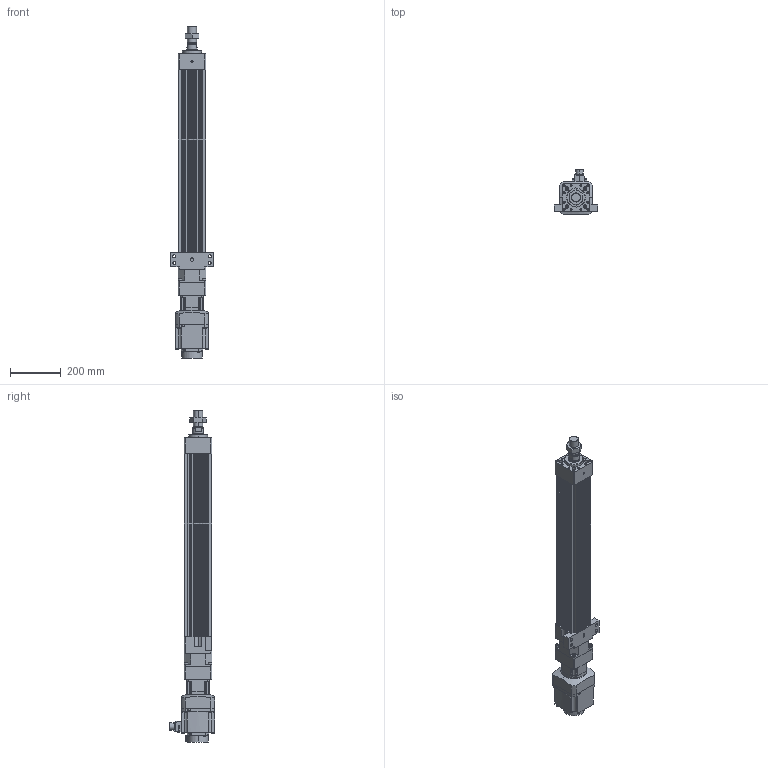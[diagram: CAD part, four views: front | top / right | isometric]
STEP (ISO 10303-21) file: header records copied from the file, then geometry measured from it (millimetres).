
FILE_DESCRIPTION (( 'STEP AP203' ), '1' );
FILE_NAME ('HES110NS(HS)-S550-W010G00-M-FFC.STEP', '2023-01-27T06:41:28', ( 'tms' ), ( '' ), 'SwSTEP 2.0', 'SolidWorks 2013', '' );
FILE_SCHEMA (( 'CONFIG_CONTROL_DESIGN' ));
Length unit declared in the file: millimetre
Products named in the file (8): HES110-S550-G090-FFC; AB0901; HG-SR102; P0401301004; M36X1.5P; HES110 ROD M ST550; AB090-003[HG-SR102B]; HES110NS(HS)-S550-W010G00-M-FFC
Assembly tree (7 placements, depth 3):
  HES110NS(HS)-S550-W010G00-M-FFC
    HES110-S550-G090-FFC
    HES110 ROD M ST550
    M36X1.5P
    AB090-003[HG-SR102B]
      AB0901
      P0401301004
    HG-SR102
Bounding box: 170 x 177.49 x 1308.5 mm (x, y, z)
Volume: 8426499.3 mm3; surface area: 1169974.6 mm2
Topology: 4 solids, 15 shells, 1217 faces, 3075 edges, 1984 vertices
Faces by surface type: plane 556, cylinder 547, cone 102, bspline 8, torus 4
Entity records: 38420 total; most frequent: CARTESIAN_POINT 7442, DIRECTION 6626, ORIENTED_EDGE 6054, EDGE_CURVE 3037, AXIS2_PLACEMENT_3D 2439, VERTEX_POINT 1984, VECTOR 1748, LINE 1748
